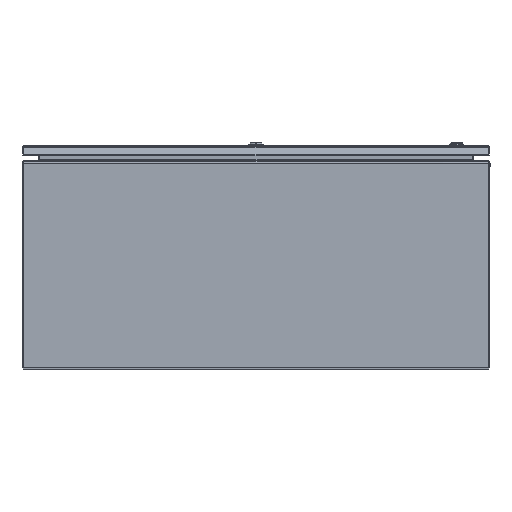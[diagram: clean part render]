
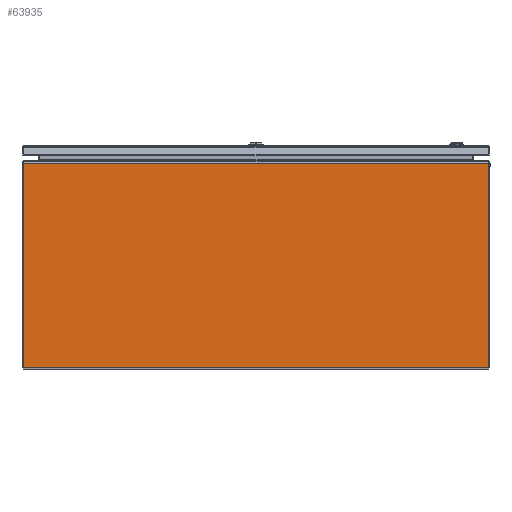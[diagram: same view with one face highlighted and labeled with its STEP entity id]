
A CAD part, front view. The second image highlights one B-rep face of the part: STEP entity #63935.
In plain terms, the highlighted planar face has unit normal (0, -1, 0).
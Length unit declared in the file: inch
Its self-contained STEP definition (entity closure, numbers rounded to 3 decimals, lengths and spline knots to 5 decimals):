
#1879 = EDGE_CURVE ( 'NONE', #44935, #49154, #54258, .T. ) ;
#5352 = CARTESIAN_POINT ( 'NONE',  ( 0.083, 0., 15.821 ) ) ;
#9243 = DIRECTION ( 'NONE',  ( 0., 0., -1. ) ) ;
#11810 = PLANE ( 'NONE',  #50762 ) ;
#16894 = DIRECTION ( 'NONE',  ( 0., 0., -1. ) ) ;
#17212 = EDGE_CURVE ( 'NONE', #44935, #56894, #55306, .T. ) ;
#17908 = DIRECTION ( 'NONE',  ( 0., -1., 0. ) ) ;
#18313 = EDGE_LOOP ( 'NONE', ( #47069, #62861, #35722, #28682 ) ) ;
#22342 = CARTESIAN_POINT ( 'NONE',  ( 35.917, 0., 15.821 ) ) ;
#25785 = CARTESIAN_POINT ( 'NONE',  ( 0.083, 0., 0.083 ) ) ;
#27724 = FACE_OUTER_BOUND ( 'NONE', #18313, .T. ) ;
#28682 = ORIENTED_EDGE ( 'NONE', *, *, #57086, .F. ) ;
#31795 = VERTEX_POINT ( 'NONE', #59299 ) ;
#35722 = ORIENTED_EDGE ( 'NONE', *, *, #61284, .F. ) ;
#36258 = CARTESIAN_POINT ( 'NONE',  ( 35.917, 0., 0.083 ) ) ;
#36821 = VECTOR ( 'NONE', #38693, 39.37008 ) ;
#38693 = DIRECTION ( 'NONE',  ( -1., 0., 0. ) ) ;
#38861 = CARTESIAN_POINT ( 'NONE',  ( 0.083, 0., 16. ) ) ;
#43334 = CARTESIAN_POINT ( 'NONE',  ( 0., 0., 0. ) ) ;
#44935 = VERTEX_POINT ( 'NONE', #22342 ) ;
#46455 = DIRECTION ( 'NONE',  ( -1., 0., 0. ) ) ;
#47069 = ORIENTED_EDGE ( 'NONE', *, *, #17212, .F. ) ;
#48210 = CARTESIAN_POINT ( 'NONE',  ( 35.917, 0., 0.083 ) ) ;
#49154 = VERTEX_POINT ( 'NONE', #5352 ) ;
#50762 = AXIS2_PLACEMENT_3D ( 'NONE', #43334, #17908, #16894 ) ;
#54258 = LINE ( 'NONE', #59322, #36821 ) ;
#55071 = LINE ( 'NONE', #38861, #59571 ) ;
#55306 = LINE ( 'NONE', #36258, #63676 ) ;
#56630 = LINE ( 'NONE', #25785, #62470 ) ;
#56894 = VERTEX_POINT ( 'NONE', #48210 ) ;
#57086 = EDGE_CURVE ( 'NONE', #56894, #31795, #56630, .T. ) ;
#59299 = CARTESIAN_POINT ( 'NONE',  ( 0.083, 0., 0.083 ) ) ;
#59322 = CARTESIAN_POINT ( 'NONE',  ( 35.917, 0., 15.821 ) ) ;
#59571 = VECTOR ( 'NONE', #64892, 39.37008 ) ;
#61284 = EDGE_CURVE ( 'NONE', #31795, #49154, #55071, .T. ) ;
#62470 = VECTOR ( 'NONE', #46455, 39.37008 ) ;
#62861 = ORIENTED_EDGE ( 'NONE', *, *, #1879, .T. ) ;
#63676 = VECTOR ( 'NONE', #9243, 39.37008 ) ;
#63935 = ADVANCED_FACE ( 'NONE', ( #27724 ), #11810, .T. ) ;
#64892 = DIRECTION ( 'NONE',  ( 0., 0., 1. ) ) ;
